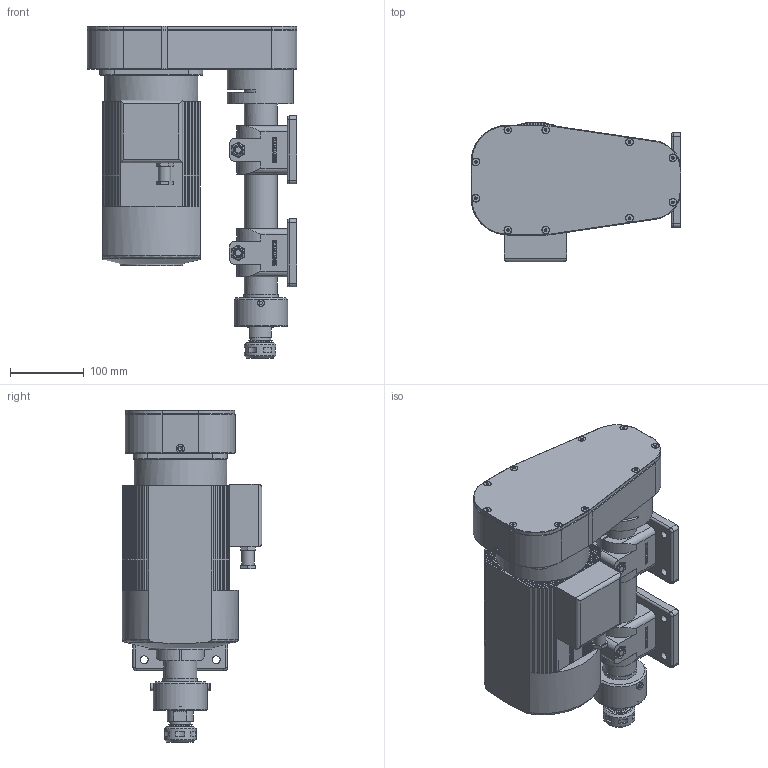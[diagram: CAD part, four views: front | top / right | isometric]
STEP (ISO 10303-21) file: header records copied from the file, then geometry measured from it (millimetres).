
FILE_DESCRIPTION(('STEP AP214'),'1');
FILE_NAME('043120-4.STP','2025-03-05T06:02:21',(' '),(' '),'Spatial InterOp 3D',' ',' ');
FILE_SCHEMA(('AUTOMOTIVE_DESIGN { 1 0 10303 214 1 1 1 1 }'));
Length unit declared in the file: millimetre
Products named in the file (1): 043120-4 F045A-P
Bounding box: 285.5 x 190 x 451.6 mm (x, y, z)
Volume: 8140611.1 mm3; surface area: 772474.6 mm2
Topology: 1 solids, 27 shells, 2035 faces, 5179 edges, 3381 vertices
Faces by surface type: plane 1276, cylinder 395, cone 315, torus 49
Full cylindrical faces by diameter (mm): 2.298 x2, 3.217 x2, 3.3 x4, 4 x8, 4.5 x4, 5 x16, 5.3 x10, 6 x22, 6.6 x4, 6.8 x1, 7 x5, 8 x7, 8.5 x1, 9 x1, 10 x22, 10.4 x10, 10.5 x12, 10.8 x4, 11 x7, 11.4 x1, 13 x1, 14 x1, 16 x2, 17 x3, 21 x1, 22 x1, 22.6 x1, 24.6 x1, 25 x1, 29 x1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
Entity records: 59778 total; most frequent: CARTESIAN_POINT 12169, DIRECTION 9699, ORIENTED_EDGE 9324, EDGE_CURVE 4662, AXIS2_PLACEMENT_3D 3309, VERTEX_POINT 3249, LINE 3081, VECTOR 3081
